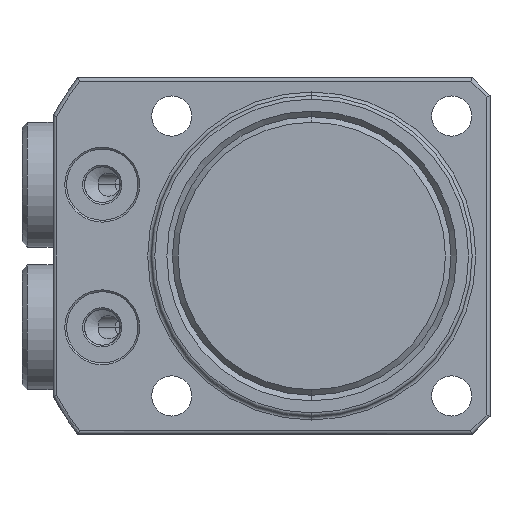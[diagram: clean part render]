
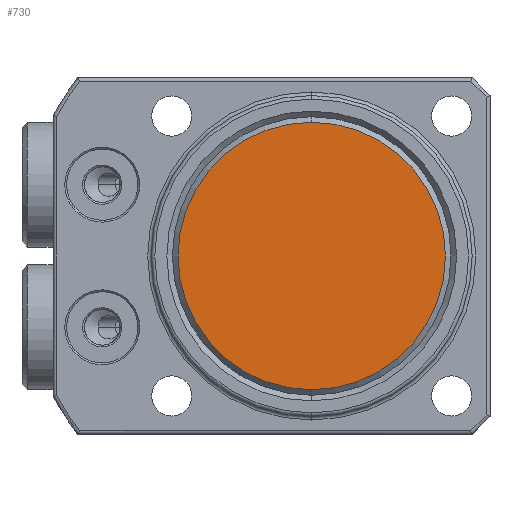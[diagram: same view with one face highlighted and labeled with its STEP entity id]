
A CAD part, front view. The second image highlights one B-rep face of the part: STEP entity #730.
In plain terms, the highlighted planar face has unit normal (0, -1, 0) as drawn and (1, 0, 0) by its records, which use the part's own axes.
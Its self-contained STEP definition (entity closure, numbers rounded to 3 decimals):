
#477=PLANE('',#2968);
#730=ADVANCED_FACE('',(#911),#477,.T.);
#911=FACE_OUTER_BOUND('',#1043,.T.);
#1043=EDGE_LOOP('',(#1609,#1610));
#1609=ORIENTED_EDGE('',*,*,#2390,.F.);
#1610=ORIENTED_EDGE('',*,*,#2509,.F.);
#2171=VERTEX_POINT('',#3983);
#2172=VERTEX_POINT('',#3984);
#2390=EDGE_CURVE('',#2171,#2172,#2731,.T.);
#2509=EDGE_CURVE('',#2172,#2171,#2777,.T.);
#2731=CIRCLE('',#2893,15.);
#2777=CIRCLE('',#2967,15.);
#2893=AXIS2_PLACEMENT_3D('',#3982,#3235,#3236);
#2967=AXIS2_PLACEMENT_3D('',#4554,#3435,#3436);
#2968=AXIS2_PLACEMENT_3D('',#4555,#3437,#3438);
#3235=DIRECTION('',(-1.,0.,0.));
#3236=DIRECTION('',(0.,0.,1.));
#3435=DIRECTION('',(-1.,0.,0.));
#3436=DIRECTION('',(0.,0.,1.));
#3437=DIRECTION('',(1.,0.,0.));
#3438=DIRECTION('',(0.,0.,1.));
#3982=CARTESIAN_POINT('',(39.5,0.,0.));
#3983=CARTESIAN_POINT('',(39.5,0.,15.));
#3984=CARTESIAN_POINT('',(39.5,0.,-15.));
#4554=CARTESIAN_POINT('',(39.5,0.,0.));
#4555=CARTESIAN_POINT('',(39.5,0.,0.));
